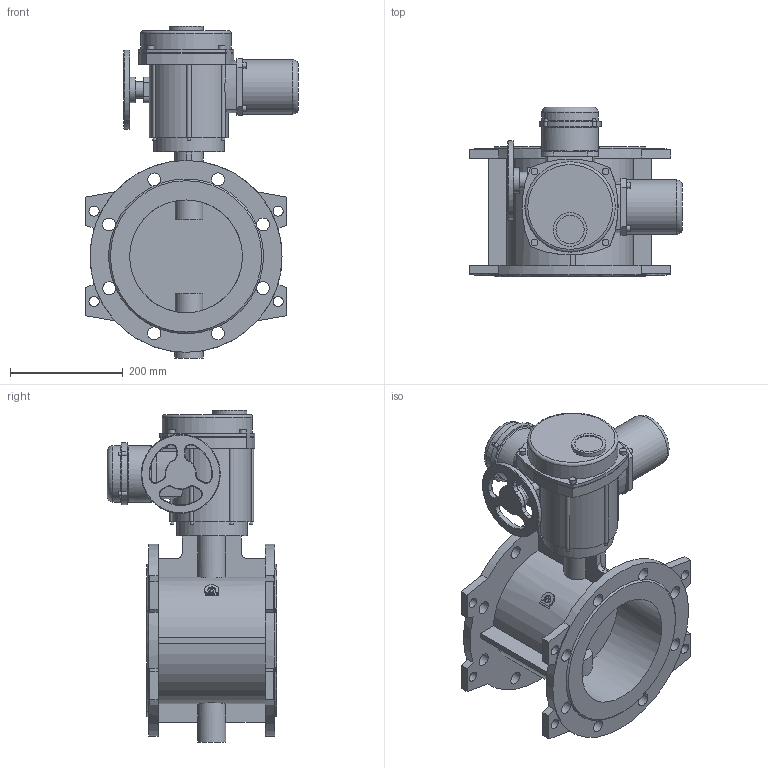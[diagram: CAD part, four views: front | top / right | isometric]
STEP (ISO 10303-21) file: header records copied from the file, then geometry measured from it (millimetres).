
FILE_DESCRIPTION(('STEP AP203'), '1');
FILE_NAME('青蜮铕 023F.Z DN200 PN10_菹_QT.Z030', '', ('UNSPECIFIED'), ('UNSPECIFIED'), 'ASCON STEP Converter 1.6', 'ASCON Math Kernel', '');
FILE_SCHEMA(('CONFIG_CONTROL_DESIGN'));
Length unit declared in the file: millimetre
Bounding box: 377 x 300 x 588 mm (x, y, z)
Volume: 11015124.3 mm3; surface area: 1016479.6 mm2
Topology: 1 solids, 1 shells, 345 faces, 891 edges, 567 vertices
Faces by surface type: cylinder 153, plane 141, torus 41, bspline 8, cone 2
Full cylindrical faces by diameter (mm): 6 x10, 10 x4, 12 x8, 12.386 x1, 18 x8, 23 x16, 30 x1, 45 x1, 50 x2, 60 x1, 96 x1, 100 x2, 125 x1, 140 x1, 160 x1, 200 x2, 340 x2
Entity records: 16490 total; most frequent: CARTESIAN_POINT 5273, DIRECTION 1838, ORIENTED_EDGE 1620, EDGE_CURVE 810, AXIS2_PLACEMENT_3D 752, VERTEX_POINT 566, EDGE_LOOP 500, CIRCLE 414
